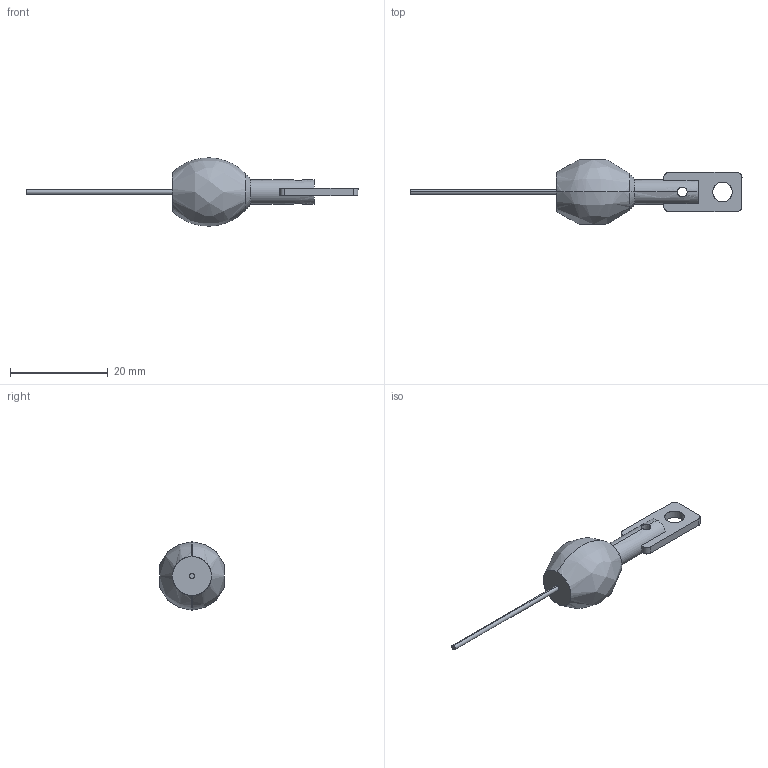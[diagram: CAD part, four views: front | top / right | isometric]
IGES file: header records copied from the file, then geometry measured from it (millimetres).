
Start section: SolidWorks IGES file using analytic representation for surfaces
Bounding box: 68 x 13.3 x 14 mm (x, y, z)
Surface area: 1398.1 mm2 (no closed solid volume)
Topology: 0 solids, 0 shells, 32 faces, 556 edges, 556 vertices
Faces by surface type: bspline 18, revolution 14
